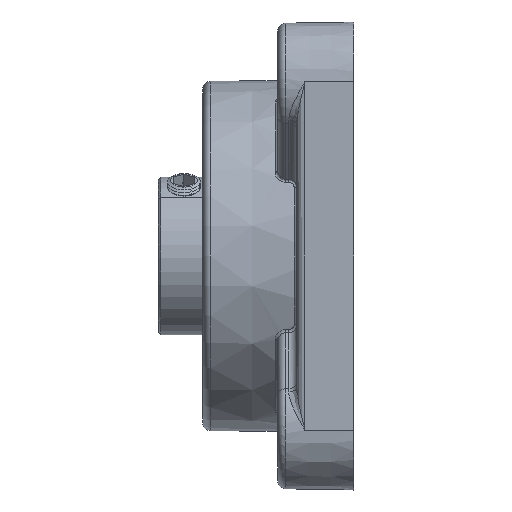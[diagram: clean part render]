
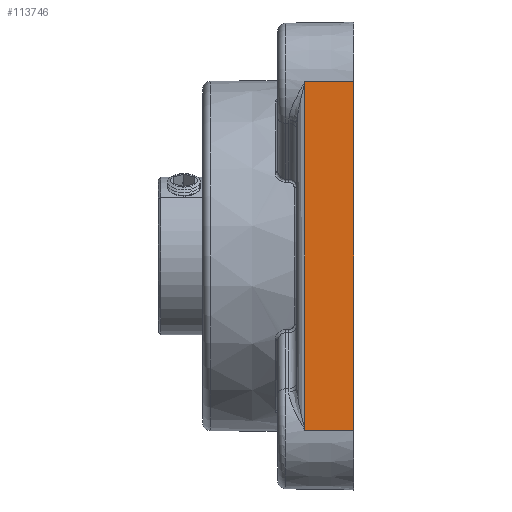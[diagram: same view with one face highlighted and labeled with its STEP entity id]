
A CAD part, left-side view. The second image highlights one B-rep face of the part: STEP entity #113746.
In plain terms, the highlighted planar face has unit normal (-1, 0.018, 0).
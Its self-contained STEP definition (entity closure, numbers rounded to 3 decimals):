
#3080 = CARTESIAN_POINT ( 'NONE',  ( -43., 0., 32. ) ) ;
#5323 = VECTOR ( 'NONE', #112422, 1000. ) ;
#11122 = VECTOR ( 'NONE', #83567, 1000. ) ;
#14303 = CARTESIAN_POINT ( 'NONE',  ( -42.842, 9.026, -32. ) ) ;
#17472 = ORIENTED_EDGE ( 'NONE', *, *, #161778, .T. ) ;
#21482 = ORIENTED_EDGE ( 'NONE', *, *, #36306, .T. ) ;
#21524 = CARTESIAN_POINT ( 'NONE',  ( -42.842, 9.026, -32. ) ) ;
#25730 = EDGE_CURVE ( 'NONE', #73792, #55354, #195247, .T. ) ;
#35595 = LINE ( 'NONE', #66164, #11122 ) ;
#36306 = EDGE_CURVE ( 'NONE', #106699, #155970, #157704, .T. ) ;
#41309 = VECTOR ( 'NONE', #88028, 1000. ) ;
#47020 = LINE ( 'NONE', #63369, #65895 ) ;
#55354 = VERTEX_POINT ( 'NONE', #75357 ) ;
#59027 = DIRECTION ( 'NONE',  ( -0.017, -1., 0. ) ) ;
#62302 = DIRECTION ( 'NONE',  ( -0.017, -1., 0. ) ) ;
#63369 = CARTESIAN_POINT ( 'NONE',  ( -43., 0., -32. ) ) ;
#65350 = AXIS2_PLACEMENT_3D ( 'NONE', #139638, #160322, #59027 ) ;
#65895 = VECTOR ( 'NONE', #62302, 1000. ) ;
#66164 = CARTESIAN_POINT ( 'NONE',  ( -43., 0., 32. ) ) ;
#73792 = VERTEX_POINT ( 'NONE', #3080 ) ;
#75357 = CARTESIAN_POINT ( 'NONE',  ( -43., 0., -32. ) ) ;
#83567 = DIRECTION ( 'NONE',  ( -0.017, -1., 0. ) ) ;
#86922 = ORIENTED_EDGE ( 'NONE', *, *, #25730, .F. ) ;
#88028 = DIRECTION ( 'NONE',  ( 0., 0., -1. ) ) ;
#90626 = PLANE ( 'NONE',  #65350 ) ;
#101639 = ORIENTED_EDGE ( 'NONE', *, *, #189648, .F. ) ;
#106699 = VERTEX_POINT ( 'NONE', #189180 ) ;
#112422 = DIRECTION ( 'NONE',  ( 0., 0., -1. ) ) ;
#113746 = ADVANCED_FACE ( 'NONE', ( #159236 ), #90626, .T. ) ;
#139638 = CARTESIAN_POINT ( 'NONE',  ( -43., 0., -32. ) ) ;
#155970 = VERTEX_POINT ( 'NONE', #14303 ) ;
#157704 = LINE ( 'NONE', #21524, #41309 ) ;
#159236 = FACE_OUTER_BOUND ( 'NONE', #160154, .T. ) ;
#160154 = EDGE_LOOP ( 'NONE', ( #101639, #21482, #17472, #86922 ) ) ;
#160322 = DIRECTION ( 'NONE',  ( -1., 0.017, 0. ) ) ;
#161778 = EDGE_CURVE ( 'NONE', #155970, #55354, #47020, .T. ) ;
#162541 = CARTESIAN_POINT ( 'NONE',  ( -43., 0., -32. ) ) ;
#189180 = CARTESIAN_POINT ( 'NONE',  ( -42.842, 9.026, 32. ) ) ;
#189648 = EDGE_CURVE ( 'NONE', #106699, #73792, #35595, .T. ) ;
#195247 = LINE ( 'NONE', #162541, #5323 ) ;
